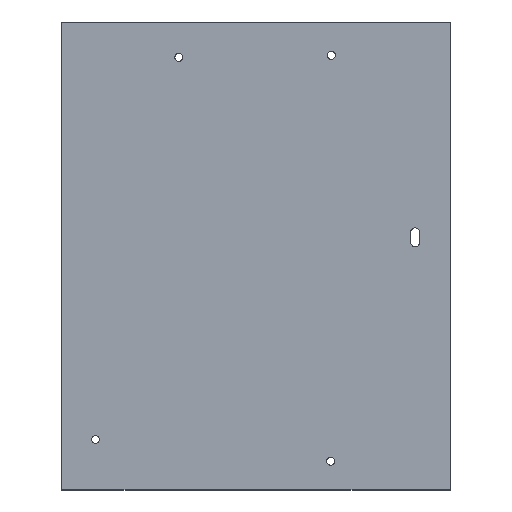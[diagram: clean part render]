
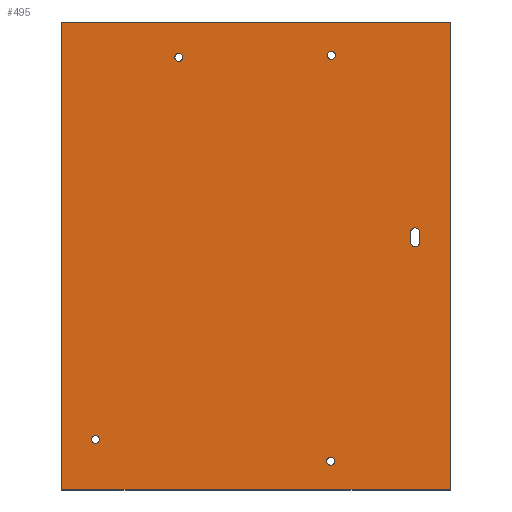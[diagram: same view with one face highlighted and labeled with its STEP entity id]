
A CAD part, top view. The second image highlights one B-rep face of the part: STEP entity #495.
In plain terms, the highlighted planar face has unit normal (0, 0, 1).
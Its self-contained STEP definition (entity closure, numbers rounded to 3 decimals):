
#108=DIRECTION('',(0.,-1.,0.));
#109=VECTOR('',#108,100.);
#110=CARTESIAN_POINT('',(-41.5,50.,0.5));
#111=LINE('',#110,#109);
#112=DIRECTION('',(-1.,0.,0.));
#113=VECTOR('',#112,83.);
#114=CARTESIAN_POINT('',(41.5,50.,0.5));
#115=LINE('',#114,#113);
#116=DIRECTION('',(0.,1.,0.));
#117=VECTOR('',#116,100.);
#118=CARTESIAN_POINT('',(41.5,-50.,0.5));
#119=LINE('',#118,#117);
#120=DIRECTION('',(1.,0.,0.));
#121=VECTOR('',#120,39.19);
#122=CARTESIAN_POINT('',(2.31,-50.,0.5));
#123=LINE('',#122,#121);
#124=DIRECTION('',(1.,0.,0.));
#125=VECTOR('',#124,5.);
#126=CARTESIAN_POINT('',(-2.69,-50.,0.5));
#127=LINE('',#126,#125);
#128=DIRECTION('',(1.,0.,0.));
#129=VECTOR('',#128,38.81);
#130=CARTESIAN_POINT('',(-41.5,-50.,0.5));
#131=LINE('',#130,#129);
#132=CARTESIAN_POINT('',(-34.3,-39.2,0.5));
#133=DIRECTION('',(0.,0.,-1.));
#134=DIRECTION('',(-1.,0.,0.));
#135=AXIS2_PLACEMENT_3D('',#132,#133,#134);
#137=CARTESIAN_POINT('',(-34.3,-39.2,0.5));
#138=DIRECTION('',(0.,0.,-1.));
#139=DIRECTION('',(1.,0.,0.));
#140=AXIS2_PLACEMENT_3D('',#137,#138,#139);
#142=CARTESIAN_POINT('',(16.1,42.88,0.5));
#143=DIRECTION('',(0.,0.,-1.));
#144=DIRECTION('',(-1.,0.,0.));
#145=AXIS2_PLACEMENT_3D('',#142,#143,#144);
#147=CARTESIAN_POINT('',(16.1,42.88,0.5));
#148=DIRECTION('',(0.,0.,-1.));
#149=DIRECTION('',(1.,0.,0.));
#150=AXIS2_PLACEMENT_3D('',#147,#148,#149);
#152=CARTESIAN_POINT('',(-16.492,42.435,0.5));
#153=DIRECTION('',(0.,0.,-1.));
#154=DIRECTION('',(-1.,0.,0.));
#155=AXIS2_PLACEMENT_3D('',#152,#153,#154);
#157=CARTESIAN_POINT('',(-16.492,42.435,0.5));
#158=DIRECTION('',(0.,0.,-1.));
#159=DIRECTION('',(1.,0.,0.));
#160=AXIS2_PLACEMENT_3D('',#157,#158,#159);
#162=CARTESIAN_POINT('',(15.95,-43.85,0.5));
#163=DIRECTION('',(0.,0.,-1.));
#164=DIRECTION('',(-1.,0.,0.));
#165=AXIS2_PLACEMENT_3D('',#162,#163,#164);
#167=CARTESIAN_POINT('',(15.95,-43.85,0.5));
#168=DIRECTION('',(0.,0.,-1.));
#169=DIRECTION('',(1.,0.,0.));
#170=AXIS2_PLACEMENT_3D('',#167,#168,#169);
#172=DIRECTION('',(0.,1.,0.));
#173=VECTOR('',#172,2.);
#174=CARTESIAN_POINT('',(35.,3.,0.5));
#175=LINE('',#174,#173);
#176=CARTESIAN_POINT('',(34.,5.,0.5));
#177=DIRECTION('',(0.,0.,1.));
#178=DIRECTION('',(1.,0.,0.));
#179=AXIS2_PLACEMENT_3D('',#176,#177,#178);
#181=DIRECTION('',(0.,-1.,0.));
#182=VECTOR('',#181,2.);
#183=CARTESIAN_POINT('',(33.,5.,0.5));
#184=LINE('',#183,#182);
#185=CARTESIAN_POINT('',(34.,3.,0.5));
#186=DIRECTION('',(0.,0.,1.));
#187=DIRECTION('',(-1.,0.,0.));
#188=AXIS2_PLACEMENT_3D('',#185,#186,#187);
#250=CARTESIAN_POINT('',(-41.5,50.,0.5));
#251=CARTESIAN_POINT('',(-41.5,-50.,0.5));
#252=VERTEX_POINT('',#250);
#253=VERTEX_POINT('',#251);
#254=CARTESIAN_POINT('',(-2.69,-50.,0.5));
#255=VERTEX_POINT('',#254);
#256=CARTESIAN_POINT('',(2.31,-50.,0.5));
#257=CARTESIAN_POINT('',(41.5,-50.,0.5));
#258=VERTEX_POINT('',#256);
#259=VERTEX_POINT('',#257);
#260=CARTESIAN_POINT('',(41.5,50.,0.5));
#261=VERTEX_POINT('',#260);
#266=CARTESIAN_POINT('',(-35.15,-39.2,0.5));
#267=CARTESIAN_POINT('',(-33.45,-39.2,0.5));
#268=VERTEX_POINT('',#266);
#269=VERTEX_POINT('',#267);
#274=CARTESIAN_POINT('',(15.25,42.88,0.5));
#275=CARTESIAN_POINT('',(16.95,42.88,0.5));
#276=VERTEX_POINT('',#274);
#277=VERTEX_POINT('',#275);
#282=CARTESIAN_POINT('',(-17.342,42.435,0.5));
#283=CARTESIAN_POINT('',(-15.642,42.435,0.5));
#284=VERTEX_POINT('',#282);
#285=VERTEX_POINT('',#283);
#290=CARTESIAN_POINT('',(15.1,-43.85,0.5));
#291=CARTESIAN_POINT('',(16.8,-43.85,0.5));
#292=VERTEX_POINT('',#290);
#293=VERTEX_POINT('',#291);
#302=CARTESIAN_POINT('',(35.,3.,0.5));
#303=CARTESIAN_POINT('',(35.,5.,0.5));
#304=VERTEX_POINT('',#302);
#305=VERTEX_POINT('',#303);
#306=CARTESIAN_POINT('',(33.,5.,0.5));
#307=CARTESIAN_POINT('',(33.,3.,0.5));
#308=VERTEX_POINT('',#306);
#309=VERTEX_POINT('',#307);
#448=CARTESIAN_POINT('',(0.,0.,0.5));
#449=DIRECTION('',(0.,0.,1.));
#450=DIRECTION('',(1.,0.,0.));
#451=AXIS2_PLACEMENT_3D('',#448,#449,#450);
#452=PLANE('',#451);
#453=ORIENTED_EDGE('',*,*,#372,.F.);
#454=ORIENTED_EDGE('',*,*,#387,.F.);
#455=ORIENTED_EDGE('',*,*,#401,.F.);
#456=ORIENTED_EDGE('',*,*,#415,.F.);
#457=ORIENTED_EDGE('',*,*,#429,.F.);
#458=ORIENTED_EDGE('',*,*,#442,.F.);
#459=EDGE_LOOP('',(#453,#454,#455,#456,#457,#458));
#460=FACE_OUTER_BOUND('',#459,.F.);
#462=ORIENTED_EDGE('',*,*,#461,.F.);
#464=ORIENTED_EDGE('',*,*,#463,.F.);
#465=EDGE_LOOP('',(#462,#464));
#466=FACE_BOUND('',#465,.F.);
#468=ORIENTED_EDGE('',*,*,#467,.F.);
#470=ORIENTED_EDGE('',*,*,#469,.F.);
#471=EDGE_LOOP('',(#468,#470));
#472=FACE_BOUND('',#471,.F.);
#474=ORIENTED_EDGE('',*,*,#473,.F.);
#476=ORIENTED_EDGE('',*,*,#475,.F.);
#477=EDGE_LOOP('',(#474,#476));
#478=FACE_BOUND('',#477,.F.);
#480=ORIENTED_EDGE('',*,*,#479,.F.);
#482=ORIENTED_EDGE('',*,*,#481,.F.);
#483=EDGE_LOOP('',(#480,#482));
#484=FACE_BOUND('',#483,.F.);
#486=ORIENTED_EDGE('',*,*,#485,.T.);
#488=ORIENTED_EDGE('',*,*,#487,.T.);
#490=ORIENTED_EDGE('',*,*,#489,.T.);
#492=ORIENTED_EDGE('',*,*,#491,.T.);
#493=EDGE_LOOP('',(#486,#488,#490,#492));
#494=FACE_BOUND('',#493,.F.);
#495=ADVANCED_FACE('',(#460,#466,#472,#478,#484,#494),#452,.T.);
#136=CIRCLE('',#135,0.85);
#141=CIRCLE('',#140,0.85);
#146=CIRCLE('',#145,0.85);
#151=CIRCLE('',#150,0.85);
#156=CIRCLE('',#155,0.85);
#161=CIRCLE('',#160,0.85);
#166=CIRCLE('',#165,0.85);
#171=CIRCLE('',#170,0.85);
#180=CIRCLE('',#179,1.);
#189=CIRCLE('',#188,1.);
#372=EDGE_CURVE('',#252,#253,#111,.T.);
#387=EDGE_CURVE('',#261,#252,#115,.T.);
#401=EDGE_CURVE('',#259,#261,#119,.T.);
#415=EDGE_CURVE('',#258,#259,#123,.T.);
#429=EDGE_CURVE('',#255,#258,#127,.T.);
#442=EDGE_CURVE('',#253,#255,#131,.T.);
#461=EDGE_CURVE('',#268,#269,#136,.T.);
#463=EDGE_CURVE('',#269,#268,#141,.T.);
#467=EDGE_CURVE('',#276,#277,#146,.T.);
#469=EDGE_CURVE('',#277,#276,#151,.T.);
#473=EDGE_CURVE('',#284,#285,#156,.T.);
#475=EDGE_CURVE('',#285,#284,#161,.T.);
#479=EDGE_CURVE('',#292,#293,#166,.T.);
#481=EDGE_CURVE('',#293,#292,#171,.T.);
#485=EDGE_CURVE('',#304,#305,#175,.T.);
#487=EDGE_CURVE('',#305,#308,#180,.T.);
#489=EDGE_CURVE('',#308,#309,#184,.T.);
#491=EDGE_CURVE('',#309,#304,#189,.T.);
